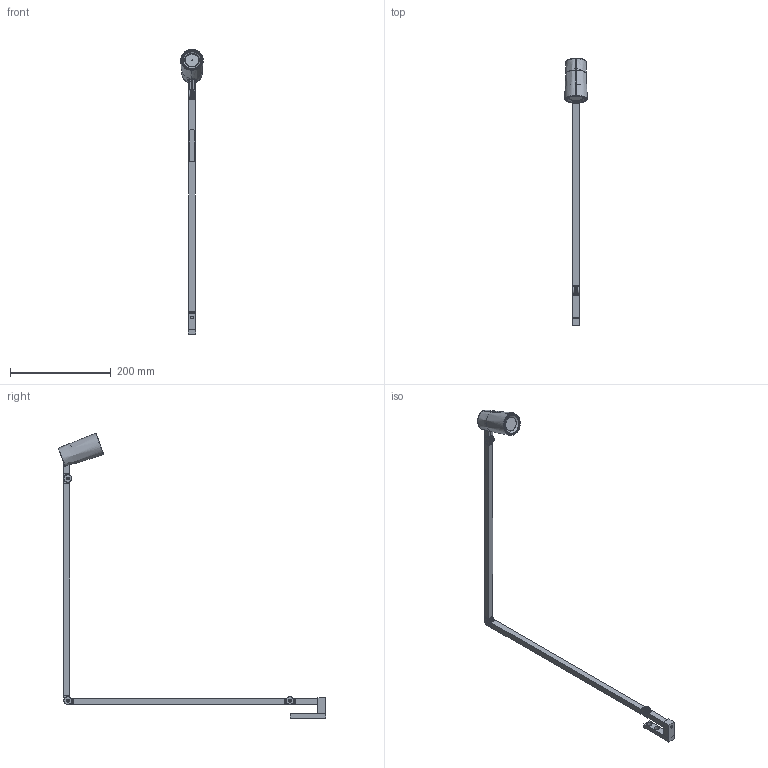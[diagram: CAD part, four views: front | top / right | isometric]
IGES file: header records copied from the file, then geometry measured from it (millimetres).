
Start section: SolidWorks IGES file using analytic representation for surfaces
Global section: file name: C:\Users\merba.NEMOLIGHTING\Desktop\Nuova cartella\UNTITLED SPOT WALL.IGS; native system: SolidWorks 2016; preprocessor: SolidWorks 2016; author: merba; date: 200921.115744; units: millimetre
Bounding box: 44.96 x 529.52 x 566.2 mm (x, y, z)
Surface area: 119530.1 mm2 (no closed solid volume)
Topology: 0 solids, 0 shells, 2337 faces, 23091 edges, 23072 vertices
Faces by surface type: bspline 1440, revolution 897
